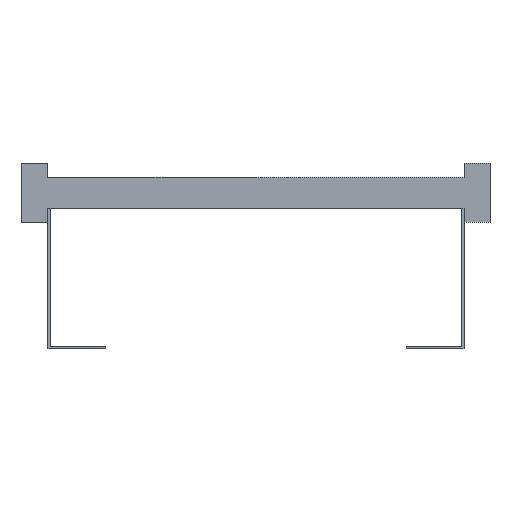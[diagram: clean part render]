
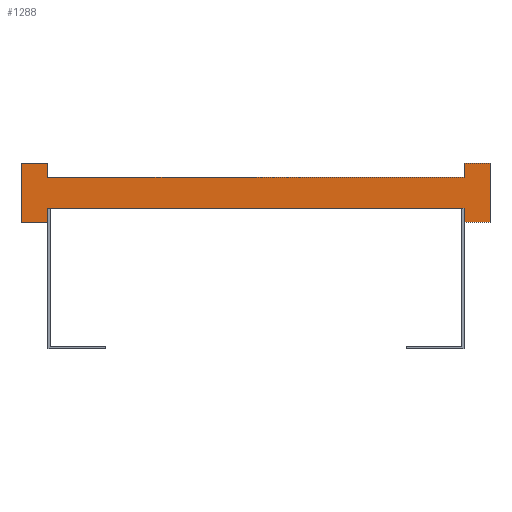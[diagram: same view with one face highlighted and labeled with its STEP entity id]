
A CAD part, front view. The second image highlights one B-rep face of the part: STEP entity #1288.
In plain terms, the highlighted planar face has unit normal (0, -1, 0).
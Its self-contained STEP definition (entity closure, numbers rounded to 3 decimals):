
#113=DIRECTION('',(0.,0.,1.));
#114=VECTOR('',#113,13.5);
#115=CARTESIAN_POINT('',(200.,0.,-28.5));
#116=LINE('',#115,#114);
#117=DIRECTION('',(0.,0.,-1.));
#118=VECTOR('',#117,13.5);
#119=CARTESIAN_POINT('',(-200.,0.,-15.));
#120=LINE('',#119,#118);
#121=DIRECTION('',(-1.,0.,0.));
#122=VECTOR('',#121,25.);
#123=CARTESIAN_POINT('',(-200.,0.,-28.5));
#124=LINE('',#123,#122);
#125=DIRECTION('',(0.,0.,1.));
#126=VECTOR('',#125,57.);
#127=CARTESIAN_POINT('',(-225.,0.,-28.5));
#128=LINE('',#127,#126);
#129=DIRECTION('',(1.,0.,0.));
#130=VECTOR('',#129,25.);
#131=CARTESIAN_POINT('',(-225.,0.,28.5));
#132=LINE('',#131,#130);
#133=DIRECTION('',(0.,0.,-1.));
#134=VECTOR('',#133,13.5);
#135=CARTESIAN_POINT('',(-200.,0.,28.5));
#136=LINE('',#135,#134);
#137=DIRECTION('',(0.,0.,1.));
#138=VECTOR('',#137,13.5);
#139=CARTESIAN_POINT('',(200.,0.,15.));
#140=LINE('',#139,#138);
#141=DIRECTION('',(1.,0.,0.));
#142=VECTOR('',#141,25.);
#143=CARTESIAN_POINT('',(200.,0.,28.5));
#144=LINE('',#143,#142);
#145=DIRECTION('',(0.,0.,-1.));
#146=VECTOR('',#145,57.);
#147=CARTESIAN_POINT('',(225.,0.,28.5));
#148=LINE('',#147,#146);
#149=DIRECTION('',(-1.,0.,0.));
#150=VECTOR('',#149,25.);
#151=CARTESIAN_POINT('',(225.,0.,-28.5));
#152=LINE('',#151,#150);
#961=DIRECTION('',(1.,0.,0.));
#962=VECTOR('',#961,400.);
#963=CARTESIAN_POINT('',(-200.,0.,-15.));
#964=LINE('',#963,#962);
#973=DIRECTION('',(1.,0.,0.));
#974=VECTOR('',#973,400.);
#975=CARTESIAN_POINT('',(-200.,0.,15.));
#976=LINE('',#975,#974);
#977=CARTESIAN_POINT('',(-225.,0.,28.5));
#978=CARTESIAN_POINT('',(-200.,0.,28.5));
#979=VERTEX_POINT('',#977);
#980=VERTEX_POINT('',#978);
#981=CARTESIAN_POINT('',(-200.,0.,-28.5));
#982=CARTESIAN_POINT('',(-225.,0.,-28.5));
#983=VERTEX_POINT('',#981);
#984=VERTEX_POINT('',#982);
#985=CARTESIAN_POINT('',(225.,0.,28.5));
#986=CARTESIAN_POINT('',(225.,0.,-28.5));
#987=VERTEX_POINT('',#985);
#988=VERTEX_POINT('',#986);
#989=CARTESIAN_POINT('',(200.,0.,-28.5));
#990=VERTEX_POINT('',#989);
#991=CARTESIAN_POINT('',(200.,0.,28.5));
#992=VERTEX_POINT('',#991);
#1009=CARTESIAN_POINT('',(-200.,0.,-15.));
#1011=VERTEX_POINT('',#1009);
#1013=CARTESIAN_POINT('',(-200.,0.,15.));
#1015=VERTEX_POINT('',#1013);
#1017=CARTESIAN_POINT('',(200.,0.,-15.));
#1019=VERTEX_POINT('',#1017);
#1021=CARTESIAN_POINT('',(200.,0.,15.));
#1023=VERTEX_POINT('',#1021);
#1257=CARTESIAN_POINT('',(0.,0.,0.));
#1258=DIRECTION('',(0.,1.,0.));
#1259=DIRECTION('',(1.,0.,0.));
#1260=AXIS2_PLACEMENT_3D('',#1257,#1258,#1259);
#1261=PLANE('',#1260);
#1263=ORIENTED_EDGE('',*,*,#1262,.T.);
#1265=ORIENTED_EDGE('',*,*,#1264,.F.);
#1267=ORIENTED_EDGE('',*,*,#1266,.T.);
#1269=ORIENTED_EDGE('',*,*,#1268,.T.);
#1271=ORIENTED_EDGE('',*,*,#1270,.T.);
#1273=ORIENTED_EDGE('',*,*,#1272,.T.);
#1275=ORIENTED_EDGE('',*,*,#1274,.T.);
#1277=ORIENTED_EDGE('',*,*,#1276,.T.);
#1279=ORIENTED_EDGE('',*,*,#1278,.T.);
#1281=ORIENTED_EDGE('',*,*,#1280,.T.);
#1283=ORIENTED_EDGE('',*,*,#1282,.T.);
#1285=ORIENTED_EDGE('',*,*,#1284,.T.);
#1286=EDGE_LOOP('',(#1263,#1265,#1267,#1269,#1271,#1273,#1275,#1277,#1279,#1281,
#1283,#1285));
#1287=FACE_OUTER_BOUND('',#1286,.F.);
#1262=EDGE_CURVE('',#990,#1019,#116,.T.);
#1264=EDGE_CURVE('',#1011,#1019,#964,.T.);
#1266=EDGE_CURVE('',#1011,#983,#120,.T.);
#1268=EDGE_CURVE('',#983,#984,#124,.T.);
#1270=EDGE_CURVE('',#984,#979,#128,.T.);
#1272=EDGE_CURVE('',#979,#980,#132,.T.);
#1274=EDGE_CURVE('',#980,#1015,#136,.T.);
#1276=EDGE_CURVE('',#1015,#1023,#976,.T.);
#1278=EDGE_CURVE('',#1023,#992,#140,.T.);
#1280=EDGE_CURVE('',#992,#987,#144,.T.);
#1282=EDGE_CURVE('',#987,#988,#148,.T.);
#1284=EDGE_CURVE('',#988,#990,#152,.T.);
#1288=ADVANCED_FACE('',(#1287),#1261,.F.);
